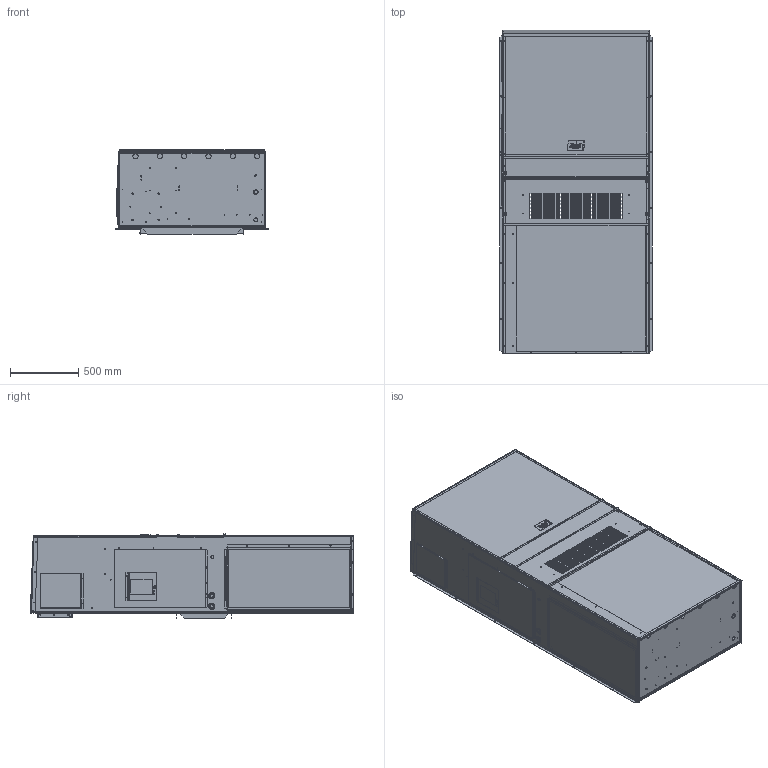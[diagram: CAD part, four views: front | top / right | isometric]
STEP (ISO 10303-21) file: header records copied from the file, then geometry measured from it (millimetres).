
FILE_DESCRIPTION (( 'STEP AP203' ), '1' );
FILE_NAME ('STEP_1300.STEP', '2016-06-28T15:16:25', ( 'BMC' ), ( 'Bard Manufacturing Co., Inc.' ), 'SwSTEP 2.0', 'SolidWorks 2016', '' );
FILE_SCHEMA (( 'CONFIG_CONTROL_DESIGN' ));
Products named in the file (1): STEP_1300
Bounding box: 1110.85 x 2362.9 x 615.94 mm (x, y, z)
Volume: 9930295.1 mm3; surface area: 19345119.3 mm2
Topology: 59 solids, 59 shells, 4237 faces, 11387 edges, 7340 vertices
Faces by surface type: plane 1845, cylinder 1316, torus 805, bspline 217, cone 32, sphere 22
Entity records: 160416 total; most frequent: CARTESIAN_POINT 51331, DIRECTION 22766, ORIENTED_EDGE 22750, EDGE_CURVE 11375, AXIS2_PLACEMENT_3D 8436, VERTEX_POINT 7336, LINE 5894, VECTOR 5894
